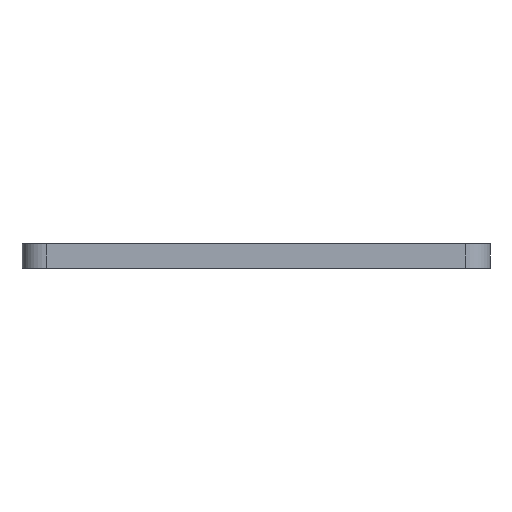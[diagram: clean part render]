
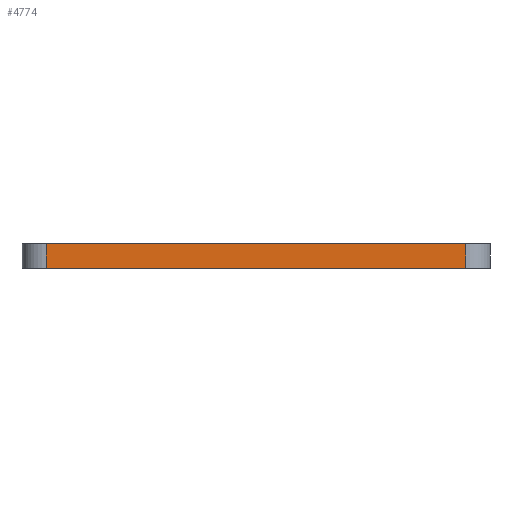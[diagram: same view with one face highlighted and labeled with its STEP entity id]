
A CAD part, left-side view. The second image highlights one B-rep face of the part: STEP entity #4774.
In plain terms, the highlighted planar face has unit normal (-1, 0, 0).
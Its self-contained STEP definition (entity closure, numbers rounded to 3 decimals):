
#490 = VERTEX_POINT ( 'NONE', #3442 ) ;
#759 = VECTOR ( 'NONE', #6086, 1000. ) ;
#1080 = VERTEX_POINT ( 'NONE', #3165 ) ;
#1141 = FACE_OUTER_BOUND ( 'NONE', #3982, .T. ) ;
#1839 = CARTESIAN_POINT ( 'NONE',  ( -91., 91., 20. ) ) ;
#2383 = ORIENTED_EDGE ( 'NONE', *, *, #3970, .T. ) ;
#2517 = DIRECTION ( 'NONE',  ( 1., 0., 0. ) ) ;
#2832 = DIRECTION ( 'NONE',  ( 0., -1., 0. ) ) ;
#2972 = LINE ( 'NONE', #3634, #7745 ) ;
#3049 = ORIENTED_EDGE ( 'NONE', *, *, #4990, .T. ) ;
#3165 = CARTESIAN_POINT ( 'NONE',  ( -91., 81.5, 9.7 ) ) ;
#3314 = VERTEX_POINT ( 'NONE', #4904 ) ;
#3442 = CARTESIAN_POINT ( 'NONE',  ( -91., -81.5, 0.3 ) ) ;
#3474 = DIRECTION ( 'NONE',  ( 0., 1., 0. ) ) ;
#3521 = DIRECTION ( 'NONE',  ( 0., 0., 1. ) ) ;
#3634 = CARTESIAN_POINT ( 'NONE',  ( -91., 91., 0.3 ) ) ;
#3740 = AXIS2_PLACEMENT_3D ( 'NONE', #1839, #2517, #5894 ) ;
#3970 = EDGE_CURVE ( 'NONE', #490, #7135, #7409, .T. ) ;
#3982 = EDGE_LOOP ( 'NONE', ( #5417, #5939, #2383, #3049 ) ) ;
#4090 = CARTESIAN_POINT ( 'NONE',  ( -91., 81.5, 9.7 ) ) ;
#4774 = ADVANCED_FACE ( 'NONE', ( #1141 ), #5762, .F. ) ;
#4877 = LINE ( 'NONE', #6818, #7206 ) ;
#4904 = CARTESIAN_POINT ( 'NONE',  ( -91., 81.5, 0.3 ) ) ;
#4990 = EDGE_CURVE ( 'NONE', #7135, #1080, #6814, .T. ) ;
#5417 = ORIENTED_EDGE ( 'NONE', *, *, #7904, .F. ) ;
#5762 = PLANE ( 'NONE',  #3740 ) ;
#5858 = EDGE_CURVE ( 'NONE', #3314, #490, #2972, .T. ) ;
#5894 = DIRECTION ( 'NONE',  ( 0., 1., 0. ) ) ;
#5939 = ORIENTED_EDGE ( 'NONE', *, *, #5858, .T. ) ;
#6086 = DIRECTION ( 'NONE',  ( 0., 0., 1. ) ) ;
#6407 = VECTOR ( 'NONE', #3474, 1000. ) ;
#6743 = CARTESIAN_POINT ( 'NONE',  ( -91., -81.5, 20. ) ) ;
#6814 = LINE ( 'NONE', #4090, #6407 ) ;
#6818 = CARTESIAN_POINT ( 'NONE',  ( -91., 81.5, 0. ) ) ;
#7135 = VERTEX_POINT ( 'NONE', #7629 ) ;
#7206 = VECTOR ( 'NONE', #3521, 1000. ) ;
#7409 = LINE ( 'NONE', #6743, #759 ) ;
#7629 = CARTESIAN_POINT ( 'NONE',  ( -91., -81.5, 9.7 ) ) ;
#7745 = VECTOR ( 'NONE', #2832, 1000. ) ;
#7904 = EDGE_CURVE ( 'NONE', #3314, #1080, #4877, .T. ) ;
